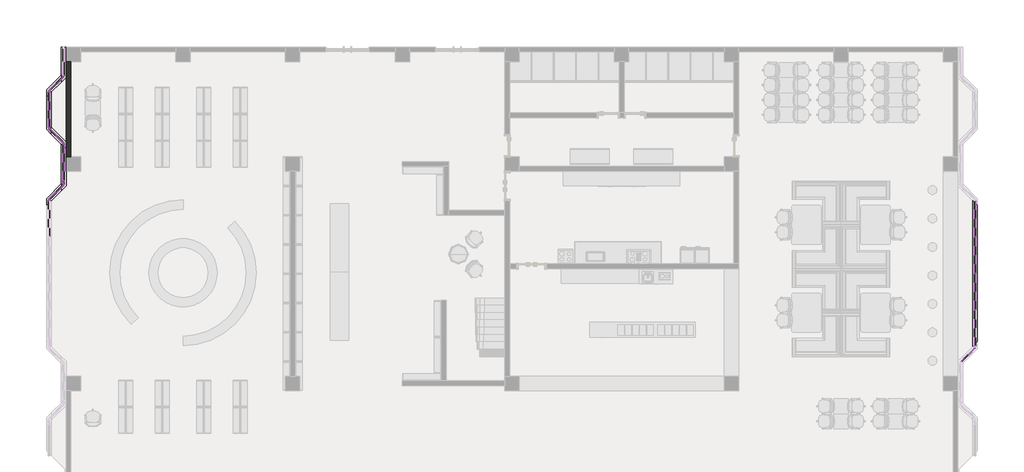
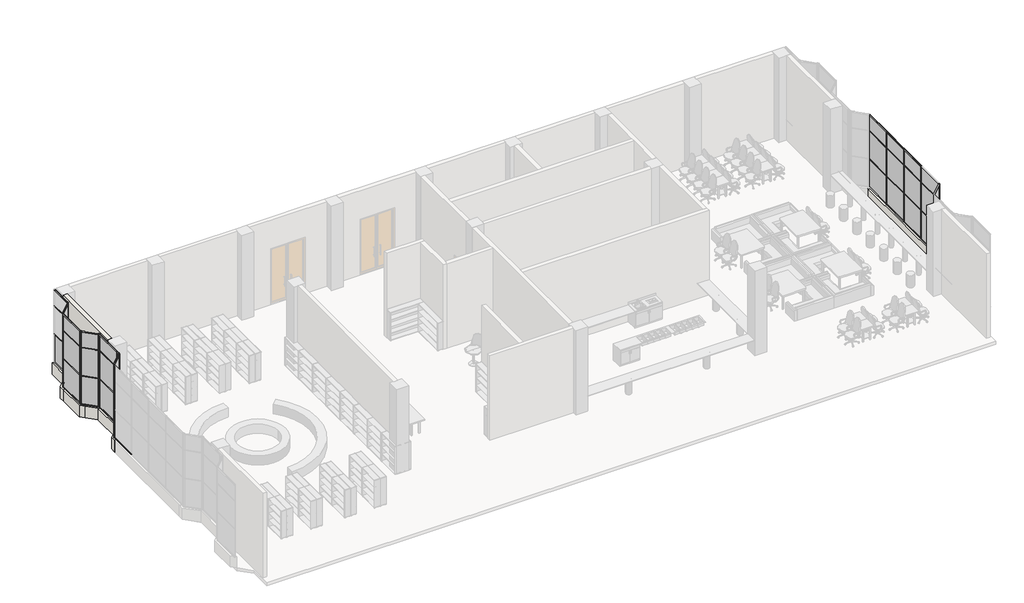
# One storey, part 3 of 6: 95 members, 33 plates, 8 walls.
"""IFC4 building model written with IfcOpenShell, lengths in millimetres."""

from ifc_helpers import new_model, si_unit, origin, origin_with_axes, place, context, project, spatial, polyline, outline, extrude, faceted_brep, transform, mapped, element, save
from components import member_cb4e50c7, member_f3a61f5a, member_936fc316, member_ce826986, member_b2874c62, member_844fc7d1, member_a19ce0de, member_3b68bbe8, member_416e91fe, member_e4634f50, member_39920356, member_1f987d58, member_65f70824, member_5b67f58a, plate_1ca0cd63, plate_54ac635d, plate_9a913afb, plate_37a4c68e, plate_a56820a4, plate_a414dcb1, plate_d4bc9f12

model = new_model("IFC4")

# Units and contexts
model_context = context("Model", 3, world=origin())
ifc_project = project(units=[si_unit("LENGTHUNIT", "METRE", prefix="MILLI")], contexts=[model_context])

# Site, building, storey
site = spatial("IfcSite", under=ifc_project)
building = spatial("IfcBuilding", under=site)
storey = spatial("IfcBuildingStorey", under=building, Name="标高 1", Elevation=0.0)

# Members
placement = place(None, origin())
member_shape = member_cb4e50c7(model_context)
element("IfcMember", 1, ObjectType="圆形竖梃 : 25mm 半径", at=placement, inside=storey, context=model_context, shape_type="MappedRepresentation", body=[
    mapped(member_shape, transform((-8832.6683839, 5524.535821, 4500.0), x_axis=(0.0, 0.0, 1.0), y_axis=(-1.0, 0.0, 0.0), z_axis=(0.0, -1.0, 0.0))),
])
member_2_shape = member_f3a61f5a(model_context)
element("IfcMember", 2, ObjectType="矩形竖梃 : 30mm 正方形", at=placement, inside=storey, context=model_context, shape_type="MappedRepresentation", body=[
    mapped(member_2_shape, transform((-8832.6683839, 5524.535821, 2135.0), x_axis=(0.0, 0.0, 1.0), y_axis=(-1.0, 0.0, 0.0), z_axis=(0.0, -1.0, 0.0))),
])
element("IfcMember", 3, ObjectType="矩形竖梃 : 30mm 正方形", at=placement, inside=storey, context=model_context, shape_type="MappedRepresentation", body=[
    mapped(member_2_shape, transform((-8832.6683839, 5524.535821, 3635.0), x_axis=(0.0, 0.0, 1.0), y_axis=(-1.0, 0.0, 0.0), z_axis=(0.0, -1.0, 0.0))),
])
member_3_shape = member_936fc316(model_context)
element("IfcMember", 4, ObjectType="圆形竖梃 : 25mm 半径", at=placement, inside=storey, context=model_context, shape_type="MappedRepresentation", body=[
    mapped(member_3_shape, transform((-8832.6683839, 5474.535821, 600.0), x_axis=(0.0, -1.0, 0.0), y_axis=(-1.0, 0.0, 0.0), z_axis=(0.0, 0.0, -1.0))),
])
element("IfcMember", 5, ObjectType="圆形竖梃 : 25mm 半径", at=placement, inside=storey, context=model_context, shape_type="MappedRepresentation", body=[
    mapped(member_3_shape, transform((-9432.6683839, 4874.535821, 600.0), x_axis=(-0.7071067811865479, -0.7071067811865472, 0.0), y_axis=(-0.7071067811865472, 0.7071067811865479, 0.0), z_axis=(0.0, 0.0, -1.0))),
])
element("IfcMember", 6, ObjectType="圆形竖梃 : 25mm 半径", at=placement, inside=storey, context=model_context, shape_type="MappedRepresentation", body=[
    mapped(member_3_shape, transform((-8832.6683839, 2733.1144647, 600.0), x_axis=(0.7071067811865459, -0.7071067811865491, 0.0), y_axis=(-0.7071067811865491, -0.7071067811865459, 0.0), z_axis=(0.0, 0.0, -1.0))),
])
element("IfcMember", 7, ObjectType="圆形竖梃 : 25mm 半径", at=placement, inside=storey, context=model_context, shape_type="MappedRepresentation", body=[
    mapped(member_3_shape, transform((-8832.6683839, 1015.9571772, 600.0), x_axis=(0.0, -1.0, 0.0), y_axis=(-1.0, 0.0, 0.0), z_axis=(0.0, 0.0, -1.0))),
])
element("IfcMember", 8, ObjectType="圆形竖梃 : 25mm 半径", at=placement, inside=storey, context=model_context, shape_type="MappedRepresentation", body=[
    mapped(member_3_shape, transform((-9432.6683839, 415.9571772, 600.0), x_axis=(-0.7071067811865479, -0.7071067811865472, 0.0), y_axis=(-0.7071067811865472, 0.7071067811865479, 0.0), z_axis=(0.0, 0.0, -1.0))),
])
member_4_shape = member_ce826986(model_context)
element("IfcMember", 9, ObjectType="圆形竖梃 : 25mm 半径", at=placement, inside=storey, context=model_context, shape_type="MappedRepresentation", body=[
    mapped(member_4_shape, transform((-8832.6683839, 5474.535821, 2135.0), x_axis=(0.0, -1.0, 0.0), y_axis=(-1.0, 0.0, 0.0), z_axis=(0.0, 0.0, -1.0))),
])
element("IfcMember", 10, ObjectType="圆形竖梃 : 25mm 半径", at=placement, inside=storey, context=model_context, shape_type="MappedRepresentation", body=[
    mapped(member_4_shape, transform((-9432.6683839, 4874.535821, 2135.0), x_axis=(-0.7071067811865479, -0.7071067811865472, 0.0), y_axis=(-0.7071067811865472, 0.7071067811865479, 0.0), z_axis=(0.0, 0.0, -1.0))),
])
element("IfcMember", 11, ObjectType="圆形竖梃 : 25mm 半径", at=placement, inside=storey, context=model_context, shape_type="MappedRepresentation", body=[
    mapped(member_4_shape, transform((-8832.6683839, 2733.1144647, 2135.0), x_axis=(0.7071067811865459, -0.7071067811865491, 0.0), y_axis=(-0.7071067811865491, -0.7071067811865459, 0.0), z_axis=(0.0, 0.0, -1.0))),
])
element("IfcMember", 12, ObjectType="圆形竖梃 : 25mm 半径", at=placement, inside=storey, context=model_context, shape_type="MappedRepresentation", body=[
    mapped(member_4_shape, transform((-8832.6683839, 1015.9571772, 2135.0), x_axis=(0.0, -1.0, 0.0), y_axis=(-1.0, 0.0, 0.0), z_axis=(0.0, 0.0, -1.0))),
])
element("IfcMember", 13, ObjectType="圆形竖梃 : 25mm 半径", at=placement, inside=storey, context=model_context, shape_type="MappedRepresentation", body=[
    mapped(member_4_shape, transform((-9432.6683839, 415.9571772, 2135.0), x_axis=(-0.7071067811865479, -0.7071067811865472, 0.0), y_axis=(-0.7071067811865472, 0.7071067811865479, 0.0), z_axis=(0.0, 0.0, -1.0))),
])
member_5_shape = member_b2874c62(model_context)
element("IfcMember", 14, ObjectType="圆形竖梃 : 25mm 半径", at=placement, inside=storey, context=model_context, shape_type="MappedRepresentation", body=[
    mapped(member_5_shape, transform((-8832.6683839, 5474.535821, 3635.0), x_axis=(0.0, -1.0, 0.0), y_axis=(-1.0, 0.0, 0.0), z_axis=(0.0, 0.0, -1.0))),
])
element("IfcMember", 15, ObjectType="圆形竖梃 : 25mm 半径", at=placement, inside=storey, context=model_context, shape_type="MappedRepresentation", body=[
    mapped(member_5_shape, transform((-9432.6683839, 4874.535821, 3635.0), x_axis=(-0.7071067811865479, -0.7071067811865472, 0.0), y_axis=(-0.7071067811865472, 0.7071067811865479, 0.0), z_axis=(0.0, 0.0, -1.0))),
])
element("IfcMember", 16, ObjectType="圆形竖梃 : 25mm 半径", at=placement, inside=storey, context=model_context, shape_type="MappedRepresentation", body=[
    mapped(member_5_shape, transform((-8832.6683839, 2733.1144647, 3635.0), x_axis=(0.7071067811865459, -0.7071067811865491, 0.0), y_axis=(-0.7071067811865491, -0.7071067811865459, 0.0), z_axis=(0.0, 0.0, -1.0))),
])
element("IfcMember", 17, ObjectType="圆形竖梃 : 25mm 半径", at=placement, inside=storey, context=model_context, shape_type="MappedRepresentation", body=[
    mapped(member_5_shape, transform((-8832.6683839, 1015.9571772, 3635.0), x_axis=(0.0, -1.0, 0.0), y_axis=(-1.0, 0.0, 0.0), z_axis=(0.0, 0.0, -1.0))),
])
element("IfcMember", 18, ObjectType="圆形竖梃 : 25mm 半径", at=placement, inside=storey, context=model_context, shape_type="MappedRepresentation", body=[
    mapped(member_5_shape, transform((-9432.6683839, 415.9571772, 3635.0), x_axis=(-0.7071067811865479, -0.7071067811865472, 0.0), y_axis=(-0.7071067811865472, 0.7071067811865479, 0.0), z_axis=(0.0, 0.0, -1.0))),
])
element("IfcMember", 19, ObjectType="圆形竖梃 : 25mm 半径", at=placement, inside=storey, context=model_context, shape_type="MappedRepresentation", body=[
    mapped(member_5_shape, transform((-8832.6683839, 5474.535821, 4500.0), x_axis=(0.7071067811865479, 0.7071067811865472, 0.0), y_axis=(-0.7071067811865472, 0.7071067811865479, 0.0), z_axis=(0.0, 0.0, 1.0))),
])
element("IfcMember", 20, ObjectType="圆形竖梃 : 25mm 半径", at=placement, inside=storey, context=model_context, shape_type="MappedRepresentation", body=[
    mapped(member_5_shape, transform((-9432.6683839, 4874.535821, 4500.0), x_axis=(0.0, 1.0, 0.0), y_axis=(-1.0, 0.0, 0.0), z_axis=(0.0, 0.0, 1.0))),
])
element("IfcMember", 21, ObjectType="圆形竖梃 : 25mm 半径", at=placement, inside=storey, context=model_context, shape_type="MappedRepresentation", body=[
    mapped(member_5_shape, transform((-9432.6683839, 3333.1144647, 4500.0), x_axis=(-0.7071067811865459, 0.7071067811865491, 0.0), y_axis=(-0.7071067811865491, -0.7071067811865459, 0.0), z_axis=(0.0, 0.0, 1.0))),
])
element("IfcMember", 22, ObjectType="圆形竖梃 : 25mm 半径", at=placement, inside=storey, context=model_context, shape_type="MappedRepresentation", body=[
    mapped(member_5_shape, transform((-8832.6683839, 2733.1144647, 4500.0), x_axis=(0.0, 1.0, 0.0), y_axis=(-1.0, 0.0, 0.0), z_axis=(0.0, 0.0, 1.0))),
])
element("IfcMember", 23, ObjectType="圆形竖梃 : 25mm 半径", at=placement, inside=storey, context=model_context, shape_type="MappedRepresentation", body=[
    mapped(member_5_shape, transform((-8832.6683839, 1015.9571772, 4500.0), x_axis=(0.7071067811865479, 0.7071067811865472, 0.0), y_axis=(-0.7071067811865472, 0.7071067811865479, 0.0), z_axis=(0.0, 0.0, 1.0))),
])
element("IfcMember", 24, ObjectType="圆形竖梃 : 25mm 半径", at=placement, inside=storey, context=model_context, shape_type="MappedRepresentation", body=[
    mapped(member_5_shape, transform((-9432.6683839, 415.9571772, 4500.0), x_axis=(0.0, 1.0, 0.0), y_axis=(-1.0, 0.0, 0.0), z_axis=(0.0, 0.0, 1.0))),
])
element("IfcMember", 25, ObjectType="圆形竖梃 : 25mm 半径", at=placement, inside=storey, context=model_context, shape_type="MappedRepresentation", body=[
    mapped(member_3_shape, transform((-8832.6683839, 5474.535821, 2135.0), x_axis=(0.7071067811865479, 0.7071067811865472, 0.0), y_axis=(-0.7071067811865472, 0.7071067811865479, 0.0), z_axis=(0.0, 0.0, 1.0))),
])
element("IfcMember", 26, ObjectType="圆形竖梃 : 25mm 半径", at=placement, inside=storey, context=model_context, shape_type="MappedRepresentation", body=[
    mapped(member_3_shape, transform((-9432.6683839, 4874.535821, 2135.0), x_axis=(0.0, 1.0, 0.0), y_axis=(-1.0, 0.0, 0.0), z_axis=(0.0, 0.0, 1.0))),
])
element("IfcMember", 27, ObjectType="圆形竖梃 : 25mm 半径", at=placement, inside=storey, context=model_context, shape_type="MappedRepresentation", body=[
    mapped(member_3_shape, transform((-9432.6683839, 3333.1144647, 2135.0), x_axis=(-0.7071067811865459, 0.7071067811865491, 0.0), y_axis=(-0.7071067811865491, -0.7071067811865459, 0.0), z_axis=(0.0, 0.0, 1.0))),
])
element("IfcMember", 28, ObjectType="圆形竖梃 : 25mm 半径", at=placement, inside=storey, context=model_context, shape_type="MappedRepresentation", body=[
    mapped(member_3_shape, transform((-8832.6683839, 2733.1144647, 2135.0), x_axis=(0.0, 1.0, 0.0), y_axis=(-1.0, 0.0, 0.0), z_axis=(0.0, 0.0, 1.0))),
])
element("IfcMember", 29, ObjectType="圆形竖梃 : 25mm 半径", at=placement, inside=storey, context=model_context, shape_type="MappedRepresentation", body=[
    mapped(member_3_shape, transform((-8832.6683839, 1015.9571772, 2135.0), x_axis=(0.7071067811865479, 0.7071067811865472, 0.0), y_axis=(-0.7071067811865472, 0.7071067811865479, 0.0), z_axis=(0.0, 0.0, 1.0))),
])
element("IfcMember", 30, ObjectType="圆形竖梃 : 25mm 半径", at=placement, inside=storey, context=model_context, shape_type="MappedRepresentation", body=[
    mapped(member_3_shape, transform((-9432.6683839, 415.9571772, 2135.0), x_axis=(0.0, 1.0, 0.0), y_axis=(-1.0, 0.0, 0.0), z_axis=(0.0, 0.0, 1.0))),
])
element("IfcMember", 31, ObjectType="圆形竖梃 : 25mm 半径", at=placement, inside=storey, context=model_context, shape_type="MappedRepresentation", body=[
    mapped(member_4_shape, transform((-8832.6683839, 5474.535821, 3635.0), x_axis=(0.7071067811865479, 0.7071067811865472, 0.0), y_axis=(-0.7071067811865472, 0.7071067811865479, 0.0), z_axis=(0.0, 0.0, 1.0))),
])
element("IfcMember", 32, ObjectType="圆形竖梃 : 25mm 半径", at=placement, inside=storey, context=model_context, shape_type="MappedRepresentation", body=[
    mapped(member_4_shape, transform((-9432.6683839, 4874.535821, 3635.0), x_axis=(0.0, 1.0, 0.0), y_axis=(-1.0, 0.0, 0.0), z_axis=(0.0, 0.0, 1.0))),
])
element("IfcMember", 33, ObjectType="圆形竖梃 : 25mm 半径", at=placement, inside=storey, context=model_context, shape_type="MappedRepresentation", body=[
    mapped(member_4_shape, transform((-9432.6683839, 3333.1144647, 3635.0), x_axis=(-0.7071067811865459, 0.7071067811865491, 0.0), y_axis=(-0.7071067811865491, -0.7071067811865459, 0.0), z_axis=(0.0, 0.0, 1.0))),
])
element("IfcMember", 34, ObjectType="圆形竖梃 : 25mm 半径", at=placement, inside=storey, context=model_context, shape_type="MappedRepresentation", body=[
    mapped(member_4_shape, transform((-8832.6683839, 2733.1144647, 3635.0), x_axis=(0.0, 1.0, 0.0), y_axis=(-1.0, 0.0, 0.0), z_axis=(0.0, 0.0, 1.0))),
])
element("IfcMember", 35, ObjectType="圆形竖梃 : 25mm 半径", at=placement, inside=storey, context=model_context, shape_type="MappedRepresentation", body=[
    mapped(member_4_shape, transform((-8832.6683839, 1015.9571772, 3635.0), x_axis=(0.7071067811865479, 0.7071067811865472, 0.0), y_axis=(-0.7071067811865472, 0.7071067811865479, 0.0), z_axis=(0.0, 0.0, 1.0))),
])
element("IfcMember", 36, ObjectType="圆形竖梃 : 25mm 半径", at=placement, inside=storey, context=model_context, shape_type="MappedRepresentation", body=[
    mapped(member_4_shape, transform((-9432.6683839, 415.9571772, 3635.0), x_axis=(0.0, 1.0, 0.0), y_axis=(-1.0, 0.0, 0.0), z_axis=(0.0, 0.0, 1.0))),
])
member_6_shape = member_844fc7d1(model_context)
element("IfcMember", 37, ObjectType="圆形竖梃 : 25mm 半径", at=placement, inside=storey, context=model_context, shape_type="MappedRepresentation", body=[
    mapped(member_6_shape, transform((-9397.3130449, 4909.89116, 4500.0), x_axis=(0.0, 0.0, 1.0), y_axis=(-0.7071067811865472, 0.7071067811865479, 0.0), z_axis=(-0.7071067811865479, -0.7071067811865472, 0.0))),
])
element("IfcMember", 38, ObjectType="圆形竖梃 : 25mm 半径", at=placement, inside=storey, context=model_context, shape_type="MappedRepresentation", body=[
    mapped(member_6_shape, transform((-8868.023723, 2768.4698038, 4500.0), x_axis=(0.0, 0.0, 1.0), y_axis=(-0.7071067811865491, -0.7071067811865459, 0.0), z_axis=(0.7071067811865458, -0.707106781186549, 0.0))),
])
element("IfcMember", 39, ObjectType="圆形竖梃 : 25mm 半径", at=placement, inside=storey, context=model_context, shape_type="MappedRepresentation", body=[
    mapped(member_6_shape, transform((-9397.3130449, 451.3125163, 4500.0), x_axis=(0.0, 0.0, 1.0), y_axis=(-0.7071067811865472, 0.7071067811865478, 0.0), z_axis=(-0.7071067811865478, -0.7071067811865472, 0.0))),
])
element("IfcMember", 40, ObjectType="圆形竖梃 : 25mm 半径", at=placement, inside=storey, context=model_context, shape_type="MappedRepresentation", body=[
    mapped(member_6_shape, transform((-8868.023723, 5439.1804819, 600.0), x_axis=(0.0, 0.0, -1.0), y_axis=(-0.7071067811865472, 0.7071067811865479, 0.0), z_axis=(0.7071067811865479, 0.7071067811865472, 0.0))),
])
element("IfcMember", 41, ObjectType="圆形竖梃 : 25mm 半径", at=placement, inside=storey, context=model_context, shape_type="MappedRepresentation", body=[
    mapped(member_6_shape, transform((-9397.3130449, 3297.7591257, 600.0), x_axis=(0.0, 0.0, -1.0), y_axis=(-0.7071067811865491, -0.7071067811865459, 0.0), z_axis=(-0.7071067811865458, 0.707106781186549, 0.0))),
])
element("IfcMember", 42, ObjectType="圆形竖梃 : 25mm 半径", at=placement, inside=storey, context=model_context, shape_type="MappedRepresentation", body=[
    mapped(member_6_shape, transform((-8868.023723, 980.6018382, 600.0), x_axis=(0.0, 0.0, -1.0), y_axis=(-0.7071067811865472, 0.7071067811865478, 0.0), z_axis=(0.7071067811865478, 0.7071067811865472, 0.0))),
])
member_7_shape = member_a19ce0de(model_context)
element("IfcMember", 43, ObjectType="矩形竖梃 : 30mm 正方形", at=placement, inside=storey, context=model_context, shape_type="MappedRepresentation", body=[
    mapped(member_7_shape, transform((-9397.3130449, 4909.89116, 2135.0), x_axis=(0.0, 0.0, 1.0), y_axis=(-0.7071067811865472, 0.7071067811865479, 0.0), z_axis=(-0.7071067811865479, -0.7071067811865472, 0.0))),
])
element("IfcMember", 44, ObjectType="矩形竖梃 : 30mm 正方形", at=placement, inside=storey, context=model_context, shape_type="MappedRepresentation", body=[
    mapped(member_7_shape, transform((-9397.3130449, 4909.89116, 3635.0), x_axis=(0.0, 0.0, 1.0), y_axis=(-0.7071067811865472, 0.7071067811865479, 0.0), z_axis=(-0.7071067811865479, -0.7071067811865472, 0.0))),
])
element("IfcMember", 45, ObjectType="矩形竖梃 : 30mm 正方形", at=placement, inside=storey, context=model_context, shape_type="MappedRepresentation", body=[
    mapped(member_7_shape, transform((-8868.023723, 2768.4698038, 2135.0), x_axis=(0.0, 0.0, 1.0), y_axis=(-0.7071067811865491, -0.7071067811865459, 0.0), z_axis=(0.7071067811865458, -0.707106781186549, 0.0))),
])
element("IfcMember", 46, ObjectType="矩形竖梃 : 30mm 正方形", at=placement, inside=storey, context=model_context, shape_type="MappedRepresentation", body=[
    mapped(member_7_shape, transform((-8868.023723, 2768.4698038, 3635.0), x_axis=(0.0, 0.0, 1.0), y_axis=(-0.7071067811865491, -0.7071067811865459, 0.0), z_axis=(0.7071067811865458, -0.707106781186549, 0.0))),
])
element("IfcMember", 47, ObjectType="矩形竖梃 : 30mm 正方形", at=placement, inside=storey, context=model_context, shape_type="MappedRepresentation", body=[
    mapped(member_7_shape, transform((-9397.3130449, 451.3125163, 2135.0), x_axis=(0.0, 0.0, 1.0), y_axis=(-0.7071067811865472, 0.7071067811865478, 0.0), z_axis=(-0.7071067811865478, -0.7071067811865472, 0.0))),
])
element("IfcMember", 48, ObjectType="矩形竖梃 : 30mm 正方形", at=placement, inside=storey, context=model_context, shape_type="MappedRepresentation", body=[
    mapped(member_7_shape, transform((-9397.3130449, 451.3125163, 3635.0), x_axis=(0.0, 0.0, 1.0), y_axis=(-0.7071067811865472, 0.7071067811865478, 0.0), z_axis=(-0.7071067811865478, -0.7071067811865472, 0.0))),
])
member_8_shape = member_3b68bbe8(model_context)
element("IfcMember", 49, ObjectType="圆形竖梃 : 25mm 半径", at=placement, inside=storey, context=model_context, shape_type="MappedRepresentation", body=[
    mapped(member_8_shape, transform((-9432.6683839, 3354.5358207, 4500.0), x_axis=(0.0, 0.0, 1.0), y_axis=(-1.0, 0.0, 0.0), z_axis=(0.0, -1.0, 0.0))),
])
element("IfcMember", 50, ObjectType="圆形竖梃 : 25mm 半径", at=placement, inside=storey, context=model_context, shape_type="MappedRepresentation", body=[
    mapped(member_8_shape, transform((-8832.6683839, 1213.1144644, 4500.0), x_axis=(0.0, 0.0, 1.0), y_axis=(-1.0, 0.0, 0.0), z_axis=(0.0, -1.0, 0.0))),
])
element("IfcMember", 51, ObjectType="圆形竖梃 : 25mm 半径", at=placement, inside=storey, context=model_context, shape_type="MappedRepresentation", body=[
    mapped(member_8_shape, transform((-9432.6683839, 4824.535821, 600.0), x_axis=(0.0, 0.0, -1.0), y_axis=(-1.0, 0.0, 0.0), z_axis=(0.0, 1.0, 0.0))),
])
element("IfcMember", 52, ObjectType="圆形竖梃 : 25mm 半径", at=placement, inside=storey, context=model_context, shape_type="MappedRepresentation", body=[
    mapped(member_8_shape, transform((-8832.6683839, 2683.1144647, 600.0), x_axis=(0.0, 0.0, -1.0), y_axis=(-1.0, 0.0, 0.0), z_axis=(0.0, 1.0, 0.0))),
])
element("IfcMember", 53, ObjectType="圆形竖梃 : 25mm 半径", at=placement, inside=storey, context=model_context, shape_type="MappedRepresentation", body=[
    mapped(member_8_shape, transform((-9432.6683839, 365.9571772, 600.0), x_axis=(0.0, 0.0, -1.0), y_axis=(-1.0, 0.0, 0.0), z_axis=(0.0, 1.0, 0.0))),
])
member_9_shape = member_416e91fe(model_context)
element("IfcMember", 54, ObjectType="矩形竖梃 : 30mm 正方形", at=placement, inside=storey, context=model_context, shape_type="MappedRepresentation", body=[
    mapped(member_9_shape, transform((-9432.6683839, 3354.5358207, 2135.0), x_axis=(0.0, 0.0, 1.0), y_axis=(-1.0, 0.0, 0.0), z_axis=(0.0, -1.0, 0.0))),
])
element("IfcMember", 55, ObjectType="矩形竖梃 : 30mm 正方形", at=placement, inside=storey, context=model_context, shape_type="MappedRepresentation", body=[
    mapped(member_9_shape, transform((-9432.6683839, 3354.5358207, 3635.0), x_axis=(0.0, 0.0, 1.0), y_axis=(-1.0, 0.0, 0.0), z_axis=(0.0, -1.0, 0.0))),
])
element("IfcMember", 56, ObjectType="矩形竖梃 : 30mm 正方形", at=placement, inside=storey, context=model_context, shape_type="MappedRepresentation", body=[
    mapped(member_9_shape, transform((-8832.6683839, 1213.1144644, 2135.0), x_axis=(0.0, 0.0, 1.0), y_axis=(-1.0, 0.0, 0.0), z_axis=(0.0, -1.0, 0.0))),
])
element("IfcMember", 57, ObjectType="矩形竖梃 : 30mm 正方形", at=placement, inside=storey, context=model_context, shape_type="MappedRepresentation", body=[
    mapped(member_9_shape, transform((-8832.6683839, 1213.1144644, 3635.0), x_axis=(0.0, 0.0, 1.0), y_axis=(-1.0, 0.0, 0.0), z_axis=(0.0, -1.0, 0.0))),
])
member_10_shape = member_e4634f50(model_context)
element("IfcMember", 58, ObjectType="矩形竖梃 : 30mm 正方形", at=placement, inside=storey, context=model_context, shape_type="MappedRepresentation", body=[
    mapped(member_10_shape, transform((-9432.6683839, 3339.5358207, 600.0), x_axis=(0.0, -1.0, 0.0), y_axis=(-1.0, 0.0, 0.0), z_axis=(0.0, 0.0, -1.0))),
])
element("IfcMember", 59, ObjectType="矩形竖梃 : 30mm 正方形", at=placement, inside=storey, context=model_context, shape_type="MappedRepresentation", body=[
    mapped(member_10_shape, transform((-8832.6683839, 1198.1144644, 600.0), x_axis=(0.0, -1.0, 0.0), y_axis=(-1.0, 0.0, 0.0), z_axis=(0.0, 0.0, -1.0))),
])
member_11_shape = member_39920356(model_context)
element("IfcMember", 60, ObjectType="矩形竖梃 : 30mm 正方形", at=placement, inside=storey, context=model_context, shape_type="MappedRepresentation", body=[
    mapped(member_11_shape, transform((-9432.6683839, 3339.5358207, 2135.0), x_axis=(0.0, -1.0, 0.0), y_axis=(-1.0, 0.0, 0.0), z_axis=(0.0, 0.0, -1.0))),
])
element("IfcMember", 61, ObjectType="矩形竖梃 : 30mm 正方形", at=placement, inside=storey, context=model_context, shape_type="MappedRepresentation", body=[
    mapped(member_11_shape, transform((-8832.6683839, 1198.1144644, 2135.0), x_axis=(0.0, -1.0, 0.0), y_axis=(-1.0, 0.0, 0.0), z_axis=(0.0, 0.0, -1.0))),
])
member_12_shape = member_1f987d58(model_context)
element("IfcMember", 62, ObjectType="矩形竖梃 : 30mm 正方形", at=placement, inside=storey, context=model_context, shape_type="MappedRepresentation", body=[
    mapped(member_12_shape, transform((-9432.6683839, 3339.5358207, 3635.0), x_axis=(0.0, -1.0, 0.0), y_axis=(-1.0, 0.0, 0.0), z_axis=(0.0, 0.0, -1.0))),
])
element("IfcMember", 63, ObjectType="矩形竖梃 : 30mm 正方形", at=placement, inside=storey, context=model_context, shape_type="MappedRepresentation", body=[
    mapped(member_12_shape, transform((-8832.6683839, 1198.1144644, 3635.0), x_axis=(0.0, -1.0, 0.0), y_axis=(-1.0, 0.0, 0.0), z_axis=(0.0, 0.0, -1.0))),
])
element("IfcMember", 64, ObjectType="圆形竖梃 : 25mm 半径", at=placement, inside=storey, context=model_context, shape_type="MappedRepresentation", body=[
    mapped(member_3_shape, transform((-9432.6683839, 3333.1144647, 600.0), x_axis=(0.0, -1.0, 0.0), y_axis=(-1.0, 0.0, 0.0), z_axis=(0.0, 0.0, -1.0))),
])
element("IfcMember", 65, ObjectType="圆形竖梃 : 25mm 半径", at=placement, inside=storey, context=model_context, shape_type="MappedRepresentation", body=[
    mapped(member_4_shape, transform((-9432.6683839, 3333.1144647, 2135.0), x_axis=(0.0, -1.0, 0.0), y_axis=(-1.0, 0.0, 0.0), z_axis=(0.0, 0.0, -1.0))),
])
element("IfcMember", 66, ObjectType="圆形竖梃 : 25mm 半径", at=placement, inside=storey, context=model_context, shape_type="MappedRepresentation", body=[
    mapped(member_5_shape, transform((-9432.6683839, 3333.1144647, 3635.0), x_axis=(0.0, -1.0, 0.0), y_axis=(-1.0, 0.0, 0.0), z_axis=(0.0, 0.0, -1.0))),
])
member_13_shape = member_65f70824(model_context)
element("IfcMember", 67, ObjectType="圆形竖梃 : 25mm 半径", at=placement, inside=storey, context=model_context, shape_type="MappedRepresentation", body=[
    mapped(member_13_shape, transform((-8832.6683839, 1065.9571772, 4500.0), x_axis=(0.0, 0.0, 1.0), y_axis=(-1.0, 0.0, 0.0), z_axis=(0.0, -1.0, 0.0))),
])
element("IfcMember", 68, ObjectType="圆形竖梃 : 25mm 半径", at=placement, inside=storey, context=model_context, shape_type="MappedRepresentation", body=[
    mapped(member_13_shape, transform((-8832.6683839, 1183.1144644, 600.0), x_axis=(0.0, 0.0, -1.0), y_axis=(-1.0, 0.0, 0.0), z_axis=(0.0, 1.0, 0.0))),
])
member_14_shape = member_5b67f58a(model_context)
element("IfcMember", 69, ObjectType="矩形竖梃 : 30mm 正方形", at=placement, inside=storey, context=model_context, shape_type="MappedRepresentation", body=[
    mapped(member_14_shape, transform((-8832.6683839, 1065.9571772, 2135.0), x_axis=(0.0, 0.0, 1.0), y_axis=(-1.0, 0.0, 0.0), z_axis=(0.0, -1.0, 0.0))),
])
element("IfcMember", 70, ObjectType="矩形竖梃 : 30mm 正方形", at=placement, inside=storey, context=model_context, shape_type="MappedRepresentation", body=[
    mapped(member_14_shape, transform((-8832.6683839, 1065.9571772, 3635.0), x_axis=(0.0, 0.0, 1.0), y_axis=(-1.0, 0.0, 0.0), z_axis=(0.0, -1.0, 0.0))),
])
element("IfcMember", 71, ObjectType="圆形竖梃 : 25mm 半径", at=placement, inside=storey, context=model_context, shape_type="MappedRepresentation", body=[
    mapped(member_5_shape, transform((28567.3316161, -5666.8855353, 4500.0), x_axis=(0.7071067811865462, 0.7071067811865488, 0.0), y_axis=(-0.7071067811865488, 0.7071067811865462, 0.0), z_axis=(0.0, 0.0, 1.0))),
])
element("IfcMember", 72, ObjectType="圆形竖梃 : 25mm 半径", at=placement, inside=storey, context=model_context, shape_type="MappedRepresentation", body=[
    mapped(member_3_shape, transform((28567.3316161, -5666.8855353, 2135.0), x_axis=(0.7071067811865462, 0.7071067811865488, 0.0), y_axis=(-0.7071067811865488, 0.7071067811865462, 0.0), z_axis=(0.0, 0.0, 1.0))),
])
element("IfcMember", 73, ObjectType="圆形竖梃 : 25mm 半径", at=placement, inside=storey, context=model_context, shape_type="MappedRepresentation", body=[
    mapped(member_4_shape, transform((28567.3316161, -5666.8855353, 3635.0), x_axis=(0.7071067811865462, 0.7071067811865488, 0.0), y_axis=(-0.7071067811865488, 0.7071067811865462, 0.0), z_axis=(0.0, 0.0, 1.0))),
])
element("IfcMember", 74, ObjectType="圆形竖梃 : 25mm 半径", at=placement, inside=storey, context=model_context, shape_type="MappedRepresentation", body=[
    mapped(member_6_shape, transform((28531.976277, -5702.2408743, 600.0), x_axis=(0.0, 0.0, -1.0), y_axis=(-0.7071067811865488, 0.7071067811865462, 0.0), z_axis=(0.7071067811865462, 0.7071067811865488, 0.0))),
])
element("IfcMember", 75, ObjectType="圆形竖梃 : 25mm 半径", at=placement, inside=storey, context=model_context, shape_type="MappedRepresentation", body=[
    mapped(member_8_shape, transform((28567.3316161, -1104.0428231, 4500.0), x_axis=(0.0, 0.0, 1.0), y_axis=(-1.0, 0.0, 0.0), z_axis=(0.0, -1.0, 0.0))),
])
element("IfcMember", 76, ObjectType="圆形竖梃 : 25mm 半径", at=placement, inside=storey, context=model_context, shape_type="MappedRepresentation", body=[
    mapped(member_8_shape, transform((28567.3316161, -2604.0428231, 4500.0), x_axis=(0.0, 0.0, 1.0), y_axis=(-1.0, 0.0, 0.0), z_axis=(0.0, -1.0, 0.0))),
])
element("IfcMember", 77, ObjectType="圆形竖梃 : 25mm 半径", at=placement, inside=storey, context=model_context, shape_type="MappedRepresentation", body=[
    mapped(member_8_shape, transform((28567.3316161, -4104.0428231, 4500.0), x_axis=(0.0, 0.0, 1.0), y_axis=(-1.0, 0.0, 0.0), z_axis=(0.0, -1.0, 0.0))),
])
element("IfcMember", 78, ObjectType="圆形竖梃 : 25mm 半径", at=placement, inside=storey, context=model_context, shape_type="MappedRepresentation", body=[
    mapped(member_8_shape, transform((28567.3316161, -1134.0428231, 600.0), x_axis=(0.0, 0.0, -1.0), y_axis=(-1.0, 0.0, 0.0), z_axis=(0.0, 1.0, 0.0))),
])
element("IfcMember", 79, ObjectType="圆形竖梃 : 25mm 半径", at=placement, inside=storey, context=model_context, shape_type="MappedRepresentation", body=[
    mapped(member_8_shape, transform((28567.3316161, -2634.0428231, 600.0), x_axis=(0.0, 0.0, -1.0), y_axis=(-1.0, 0.0, 0.0), z_axis=(0.0, 1.0, 0.0))),
])
element("IfcMember", 80, ObjectType="圆形竖梃 : 25mm 半径", at=placement, inside=storey, context=model_context, shape_type="MappedRepresentation", body=[
    mapped(member_8_shape, transform((28567.3316161, -4134.0428231, 600.0), x_axis=(0.0, 0.0, -1.0), y_axis=(-1.0, 0.0, 0.0), z_axis=(0.0, 1.0, 0.0))),
])
element("IfcMember", 81, ObjectType="矩形竖梃 : 30mm 正方形", at=placement, inside=storey, context=model_context, shape_type="MappedRepresentation", body=[
    mapped(member_9_shape, transform((28567.3316161, -1104.0428231, 2135.0), x_axis=(0.0, 0.0, 1.0), y_axis=(-1.0, 0.0, 0.0), z_axis=(0.0, -1.0, 0.0))),
])
element("IfcMember", 82, ObjectType="矩形竖梃 : 30mm 正方形", at=placement, inside=storey, context=model_context, shape_type="MappedRepresentation", body=[
    mapped(member_9_shape, transform((28567.3316161, -2604.0428231, 2135.0), x_axis=(0.0, 0.0, 1.0), y_axis=(-1.0, 0.0, 0.0), z_axis=(0.0, -1.0, 0.0))),
])
element("IfcMember", 83, ObjectType="矩形竖梃 : 30mm 正方形", at=placement, inside=storey, context=model_context, shape_type="MappedRepresentation", body=[
    mapped(member_9_shape, transform((28567.3316161, -4104.0428231, 2135.0), x_axis=(0.0, 0.0, 1.0), y_axis=(-1.0, 0.0, 0.0), z_axis=(0.0, -1.0, 0.0))),
])
element("IfcMember", 84, ObjectType="矩形竖梃 : 30mm 正方形", at=placement, inside=storey, context=model_context, shape_type="MappedRepresentation", body=[
    mapped(member_9_shape, transform((28567.3316161, -1104.0428231, 3635.0), x_axis=(0.0, 0.0, 1.0), y_axis=(-1.0, 0.0, 0.0), z_axis=(0.0, -1.0, 0.0))),
])
element("IfcMember", 85, ObjectType="矩形竖梃 : 30mm 正方形", at=placement, inside=storey, context=model_context, shape_type="MappedRepresentation", body=[
    mapped(member_9_shape, transform((28567.3316161, -2604.0428231, 3635.0), x_axis=(0.0, 0.0, 1.0), y_axis=(-1.0, 0.0, 0.0), z_axis=(0.0, -1.0, 0.0))),
])
element("IfcMember", 86, ObjectType="矩形竖梃 : 30mm 正方形", at=placement, inside=storey, context=model_context, shape_type="MappedRepresentation", body=[
    mapped(member_9_shape, transform((28567.3316161, -4104.0428231, 3635.0), x_axis=(0.0, 0.0, 1.0), y_axis=(-1.0, 0.0, 0.0), z_axis=(0.0, -1.0, 0.0))),
])
element("IfcMember", 87, ObjectType="矩形竖梃 : 30mm 正方形", at=placement, inside=storey, context=model_context, shape_type="MappedRepresentation", body=[
    mapped(member_10_shape, transform((28567.3316161, -1119.0428231, 600.0), x_axis=(0.0, -1.0, 0.0), y_axis=(-1.0, 0.0, 0.0), z_axis=(0.0, 0.0, -1.0))),
])
element("IfcMember", 88, ObjectType="矩形竖梃 : 30mm 正方形", at=placement, inside=storey, context=model_context, shape_type="MappedRepresentation", body=[
    mapped(member_10_shape, transform((28567.3316161, -2619.0428231, 600.0), x_axis=(0.0, -1.0, 0.0), y_axis=(-1.0, 0.0, 0.0), z_axis=(0.0, 0.0, -1.0))),
])
element("IfcMember", 89, ObjectType="矩形竖梃 : 30mm 正方形", at=placement, inside=storey, context=model_context, shape_type="MappedRepresentation", body=[
    mapped(member_10_shape, transform((28567.3316161, -4119.0428231, 600.0), x_axis=(0.0, -1.0, 0.0), y_axis=(-1.0, 0.0, 0.0), z_axis=(0.0, 0.0, -1.0))),
])
element("IfcMember", 90, ObjectType="矩形竖梃 : 30mm 正方形", at=placement, inside=storey, context=model_context, shape_type="MappedRepresentation", body=[
    mapped(member_11_shape, transform((28567.3316161, -1119.0428231, 2135.0), x_axis=(0.0, -1.0, 0.0), y_axis=(-1.0, 0.0, 0.0), z_axis=(0.0, 0.0, -1.0))),
])
element("IfcMember", 91, ObjectType="矩形竖梃 : 30mm 正方形", at=placement, inside=storey, context=model_context, shape_type="MappedRepresentation", body=[
    mapped(member_11_shape, transform((28567.3316161, -2619.0428231, 2135.0), x_axis=(0.0, -1.0, 0.0), y_axis=(-1.0, 0.0, 0.0), z_axis=(0.0, 0.0, -1.0))),
])
element("IfcMember", 92, ObjectType="矩形竖梃 : 30mm 正方形", at=placement, inside=storey, context=model_context, shape_type="MappedRepresentation", body=[
    mapped(member_11_shape, transform((28567.3316161, -4119.0428231, 2135.0), x_axis=(0.0, -1.0, 0.0), y_axis=(-1.0, 0.0, 0.0), z_axis=(0.0, 0.0, -1.0))),
])
element("IfcMember", 93, ObjectType="矩形竖梃 : 30mm 正方形", at=placement, inside=storey, context=model_context, shape_type="MappedRepresentation", body=[
    mapped(member_12_shape, transform((28567.3316161, -1119.0428231, 3635.0), x_axis=(0.0, -1.0, 0.0), y_axis=(-1.0, 0.0, 0.0), z_axis=(0.0, 0.0, -1.0))),
])
element("IfcMember", 94, ObjectType="矩形竖梃 : 30mm 正方形", at=placement, inside=storey, context=model_context, shape_type="MappedRepresentation", body=[
    mapped(member_12_shape, transform((28567.3316161, -2619.0428231, 3635.0), x_axis=(0.0, -1.0, 0.0), y_axis=(-1.0, 0.0, 0.0), z_axis=(0.0, 0.0, -1.0))),
])
element("IfcMember", 95, ObjectType="矩形竖梃 : 30mm 正方形", at=placement, inside=storey, context=model_context, shape_type="MappedRepresentation", body=[
    mapped(member_12_shape, transform((28567.3316161, -4119.0428231, 3635.0), x_axis=(0.0, -1.0, 0.0), y_axis=(-1.0, 0.0, 0.0), z_axis=(0.0, 0.0, -1.0))),
])

# Plates
plate_shape = plate_1ca0cd63(model_context)
element("IfcPlate", 96, ObjectType="系统嵌板 : 玻璃", at=placement, inside=storey, context=model_context, shape_type="MappedRepresentation", body=[
    mapped(plate_shape, transform((-8832.6683839, 6074.535821, 650.0), x_axis=(0.0, -1.0, 0.0), y_axis=(1.0, 0.0, 0.0), z_axis=(0.0, 0.0, 1.0))),
])
plate_2_shape = plate_54ac635d(model_context)
element("IfcPlate", 97, ObjectType="系统嵌板 : 玻璃", at=placement, inside=storey, context=model_context, shape_type="MappedRepresentation", body=[
    mapped(plate_2_shape, transform((-9132.6683839, 5174.535821, 650.0), x_axis=(-0.7071067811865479, -0.7071067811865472, 0.0), y_axis=(0.7071067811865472, -0.7071067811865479, 0.0), z_axis=(0.0, 0.0, 1.0))),
])
element("IfcPlate", 98, ObjectType="系统嵌板 : 玻璃", at=placement, inside=storey, context=model_context, shape_type="MappedRepresentation", body=[
    mapped(plate_2_shape, transform((-9132.6683839, 5174.535821, 2150.0), x_axis=(-0.7071067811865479, -0.7071067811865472, 0.0), y_axis=(0.7071067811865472, -0.7071067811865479, 0.0), z_axis=(0.0, 0.0, 1.0))),
])
element("IfcPlate", 99, ObjectType="系统嵌板 : 玻璃", at=placement, inside=storey, context=model_context, shape_type="MappedRepresentation", body=[
    mapped(plate_2_shape, transform((-9132.6683839, 3033.1144647, 650.0), x_axis=(0.7071067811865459, -0.7071067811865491, 0.0), y_axis=(0.7071067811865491, 0.7071067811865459, 0.0), z_axis=(0.0, 0.0, 1.0))),
])
element("IfcPlate", 100, ObjectType="系统嵌板 : 玻璃", at=placement, inside=storey, context=model_context, shape_type="MappedRepresentation", body=[
    mapped(plate_2_shape, transform((-9132.6683839, 3033.1144647, 2150.0), x_axis=(0.7071067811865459, -0.7071067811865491, 0.0), y_axis=(0.7071067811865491, 0.7071067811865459, 0.0), z_axis=(0.0, 0.0, 1.0))),
])
element("IfcPlate", 101, ObjectType="系统嵌板 : 玻璃", at=placement, inside=storey, context=model_context, shape_type="MappedRepresentation", body=[
    mapped(plate_2_shape, transform((-9132.6683839, 715.9571772, 650.0), x_axis=(-0.7071067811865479, -0.7071067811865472, 0.0), y_axis=(0.7071067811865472, -0.7071067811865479, 0.0), z_axis=(0.0, 0.0, 1.0))),
])
element("IfcPlate", 102, ObjectType="系统嵌板 : 玻璃", at=placement, inside=storey, context=model_context, shape_type="MappedRepresentation", body=[
    mapped(plate_2_shape, transform((-9132.6683839, 715.9571772, 2150.0), x_axis=(-0.7071067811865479, -0.7071067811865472, 0.0), y_axis=(0.7071067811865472, -0.7071067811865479, 0.0), z_axis=(0.0, 0.0, 1.0))),
])
plate_3_shape = plate_9a913afb(model_context)
element("IfcPlate", 103, ObjectType="系统嵌板 : 玻璃", at=placement, inside=storey, context=model_context, shape_type="MappedRepresentation", body=[
    mapped(plate_3_shape, transform((-9132.6683839, 5174.535821, 3650.0), x_axis=(-0.7071067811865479, -0.7071067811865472, 0.0), y_axis=(0.7071067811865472, -0.7071067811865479, 0.0), z_axis=(0.0, 0.0, 1.0))),
])
element("IfcPlate", 104, ObjectType="系统嵌板 : 玻璃", at=placement, inside=storey, context=model_context, shape_type="MappedRepresentation", body=[
    mapped(plate_3_shape, transform((-9132.6683839, 3033.1144647, 3650.0), x_axis=(0.7071067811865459, -0.7071067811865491, 0.0), y_axis=(0.7071067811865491, 0.7071067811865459, 0.0), z_axis=(0.0, 0.0, 1.0))),
])
element("IfcPlate", 105, ObjectType="系统嵌板 : 玻璃", at=placement, inside=storey, context=model_context, shape_type="MappedRepresentation", body=[
    mapped(plate_3_shape, transform((-9132.6683839, 715.9571772, 3650.0), x_axis=(-0.7071067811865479, -0.7071067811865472, 0.0), y_axis=(0.7071067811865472, -0.7071067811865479, 0.0), z_axis=(0.0, 0.0, 1.0))),
])
plate_4_shape = plate_37a4c68e(model_context)
element("IfcPlate", 106, ObjectType="系统嵌板 : 玻璃", at=placement, inside=storey, context=model_context, shape_type="MappedRepresentation", body=[
    mapped(plate_4_shape, transform((-9432.6683839, 4089.5358208, 650.0), x_axis=(0.0, -1.0, 0.0), y_axis=(1.0, 0.0, 0.0), z_axis=(0.0, 0.0, 1.0))),
])
element("IfcPlate", 107, ObjectType="系统嵌板 : 玻璃", at=placement, inside=storey, context=model_context, shape_type="MappedRepresentation", body=[
    mapped(plate_4_shape, transform((-9432.6683839, 4089.5358208, 2150.0), x_axis=(0.0, -1.0, 0.0), y_axis=(1.0, 0.0, 0.0), z_axis=(0.0, 0.0, 1.0))),
])
element("IfcPlate", 108, ObjectType="系统嵌板 : 玻璃", at=placement, inside=storey, context=model_context, shape_type="MappedRepresentation", body=[
    mapped(plate_4_shape, transform((-8832.6683839, 1948.1144646, 650.0), x_axis=(0.0, -1.0, 0.0), y_axis=(1.0, 0.0, 0.0), z_axis=(0.0, 0.0, 1.0))),
])
element("IfcPlate", 109, ObjectType="系统嵌板 : 玻璃", at=placement, inside=storey, context=model_context, shape_type="MappedRepresentation", body=[
    mapped(plate_4_shape, transform((-8832.6683839, 1948.1144646, 2150.0), x_axis=(0.0, -1.0, 0.0), y_axis=(1.0, 0.0, 0.0), z_axis=(0.0, 0.0, 1.0))),
])
plate_5_shape = plate_a56820a4(model_context)
element("IfcPlate", 110, ObjectType="系统嵌板 : 玻璃", at=placement, inside=storey, context=model_context, shape_type="MappedRepresentation", body=[
    mapped(plate_5_shape, transform((-9432.6683839, 4089.5358208, 3650.0), x_axis=(0.0, -1.0, 0.0), y_axis=(1.0, 0.0, 0.0), z_axis=(0.0, 0.0, 1.0))),
])
element("IfcPlate", 111, ObjectType="系统嵌板 : 玻璃", at=placement, inside=storey, context=model_context, shape_type="MappedRepresentation", body=[
    mapped(plate_5_shape, transform((-8832.6683839, 1948.1144646, 3650.0), x_axis=(0.0, -1.0, 0.0), y_axis=(1.0, 0.0, 0.0), z_axis=(0.0, 0.0, 1.0))),
])
plate_6_shape = plate_a414dcb1(model_context)
element("IfcPlate", 112, ObjectType="系统嵌板 : 玻璃", at=placement, inside=storey, context=model_context, shape_type="MappedRepresentation", body=[
    mapped(plate_6_shape, transform((-8832.6683839, 1124.5358208, 650.0), x_axis=(0.0, -1.0, 0.0), y_axis=(1.0, 0.0, 0.0), z_axis=(0.0, 0.0, 1.0))),
])
element("IfcPlate", 113, ObjectType="系统嵌板 : 玻璃", at=placement, inside=storey, context=model_context, shape_type="MappedRepresentation", body=[
    mapped(plate_6_shape, transform((-8832.6683839, 1124.5358208, 2150.0), x_axis=(0.0, -1.0, 0.0), y_axis=(1.0, 0.0, 0.0), z_axis=(0.0, 0.0, 1.0))),
])
plate_7_shape = plate_d4bc9f12(model_context)
element("IfcPlate", 114, ObjectType="系统嵌板 : 玻璃", at=placement, inside=storey, context=model_context, shape_type="MappedRepresentation", body=[
    mapped(plate_7_shape, transform((-8832.6683839, 1124.5358208, 3650.0), x_axis=(0.0, -1.0, 0.0), y_axis=(1.0, 0.0, 0.0), z_axis=(0.0, 0.0, 1.0))),
])
element("IfcPlate", 115, ObjectType="系统嵌板 : 玻璃", at=placement, inside=storey, context=model_context, shape_type="MappedRepresentation", body=[
    mapped(plate_2_shape, transform((28267.3316161, -5966.8855353, 2150.0), x_axis=(-0.7071067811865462, -0.7071067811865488, 0.0), y_axis=(0.7071067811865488, -0.7071067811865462, 0.0), z_axis=(0.0, 0.0, 1.0))),
])
element("IfcPlate", 116, ObjectType="系统嵌板 : 玻璃", at=placement, inside=storey, context=model_context, shape_type="MappedRepresentation", body=[
    mapped(plate_3_shape, transform((28267.3316161, -5966.8855353, 3650.0), x_axis=(-0.7071067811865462, -0.7071067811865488, 0.0), y_axis=(0.7071067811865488, -0.7071067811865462, 0.0), z_axis=(0.0, 0.0, 1.0))),
])
element("IfcPlate", 117, ObjectType="系统嵌板 : 玻璃", at=placement, inside=storey, context=model_context, shape_type="MappedRepresentation", body=[
    mapped(plate_4_shape, transform((28567.3316161, -369.0428229, 650.0), x_axis=(0.0, -1.0, 0.0), y_axis=(1.0, 0.0, 0.0), z_axis=(0.0, 0.0, 1.0))),
])
element("IfcPlate", 118, ObjectType="系统嵌板 : 玻璃", at=placement, inside=storey, context=model_context, shape_type="MappedRepresentation", body=[
    mapped(plate_4_shape, transform((28567.3316161, -1869.0428231, 650.0), x_axis=(0.0, -1.0, 0.0), y_axis=(1.0, 0.0, 0.0), z_axis=(0.0, 0.0, 1.0))),
])
element("IfcPlate", 119, ObjectType="系统嵌板 : 玻璃", at=placement, inside=storey, context=model_context, shape_type="MappedRepresentation", body=[
    mapped(plate_4_shape, transform((28567.3316161, -3369.0428231, 650.0), x_axis=(0.0, -1.0, 0.0), y_axis=(1.0, 0.0, 0.0), z_axis=(0.0, 0.0, 1.0))),
])
element("IfcPlate", 120, ObjectType="系统嵌板 : 玻璃", at=placement, inside=storey, context=model_context, shape_type="MappedRepresentation", body=[
    mapped(plate_4_shape, transform((28567.3316161, -4869.0428231, 650.0), x_axis=(0.0, -1.0, 0.0), y_axis=(1.0, 0.0, 0.0), z_axis=(0.0, 0.0, 1.0))),
])
element("IfcPlate", 121, ObjectType="系统嵌板 : 玻璃", at=placement, inside=storey, context=model_context, shape_type="MappedRepresentation", body=[
    mapped(plate_4_shape, transform((28567.3316161, -369.0428229, 2150.0), x_axis=(0.0, -1.0, 0.0), y_axis=(1.0, 0.0, 0.0), z_axis=(0.0, 0.0, 1.0))),
])
element("IfcPlate", 122, ObjectType="系统嵌板 : 玻璃", at=placement, inside=storey, context=model_context, shape_type="MappedRepresentation", body=[
    mapped(plate_4_shape, transform((28567.3316161, -1869.0428231, 2150.0), x_axis=(0.0, -1.0, 0.0), y_axis=(1.0, 0.0, 0.0), z_axis=(0.0, 0.0, 1.0))),
])
element("IfcPlate", 123, ObjectType="系统嵌板 : 玻璃", at=placement, inside=storey, context=model_context, shape_type="MappedRepresentation", body=[
    mapped(plate_4_shape, transform((28567.3316161, -3369.0428231, 2150.0), x_axis=(0.0, -1.0, 0.0), y_axis=(1.0, 0.0, 0.0), z_axis=(0.0, 0.0, 1.0))),
])
element("IfcPlate", 124, ObjectType="系统嵌板 : 玻璃", at=placement, inside=storey, context=model_context, shape_type="MappedRepresentation", body=[
    mapped(plate_4_shape, transform((28567.3316161, -4869.0428231, 2150.0), x_axis=(0.0, -1.0, 0.0), y_axis=(1.0, 0.0, 0.0), z_axis=(0.0, 0.0, 1.0))),
])
element("IfcPlate", 125, ObjectType="系统嵌板 : 玻璃", at=placement, inside=storey, context=model_context, shape_type="MappedRepresentation", body=[
    mapped(plate_5_shape, transform((28567.3316161, -369.0428229, 3650.0), x_axis=(0.0, -1.0, 0.0), y_axis=(1.0, 0.0, 0.0), z_axis=(0.0, 0.0, 1.0))),
])
element("IfcPlate", 126, ObjectType="系统嵌板 : 玻璃", at=placement, inside=storey, context=model_context, shape_type="MappedRepresentation", body=[
    mapped(plate_5_shape, transform((28567.3316161, -1869.0428231, 3650.0), x_axis=(0.0, -1.0, 0.0), y_axis=(1.0, 0.0, 0.0), z_axis=(0.0, 0.0, 1.0))),
])
element("IfcPlate", 127, ObjectType="系统嵌板 : 玻璃", at=placement, inside=storey, context=model_context, shape_type="MappedRepresentation", body=[
    mapped(plate_5_shape, transform((28567.3316161, -3369.0428231, 3650.0), x_axis=(0.0, -1.0, 0.0), y_axis=(1.0, 0.0, 0.0), z_axis=(0.0, 0.0, 1.0))),
])
element("IfcPlate", 128, ObjectType="系统嵌板 : 玻璃", at=placement, inside=storey, context=model_context, shape_type="MappedRepresentation", body=[
    mapped(plate_5_shape, transform((28567.3316161, -4869.0428231, 3650.0), x_axis=(0.0, -1.0, 0.0), y_axis=(1.0, 0.0, 0.0), z_axis=(0.0, 0.0, 1.0))),
])

# Walls
element("IfcWall", 129, ObjectType="外墙-200", at=placement, inside=storey, context=model_context, shape_type="SweptSolid", body=[
    extrude(outline(polyline([(-8732.6683839, 2174.535821), (-8732.6683839, 6074.535821), (-8532.6683839, 6074.535821), (-8532.6683839, 2174.535821), (-8732.6683839, 2174.535821)])), origin_with_axes(), (0.0, 0.0, 1.0), 4500.0),
])
element("IfcWall", 130, ObjectType="外墙-200", at=placement, inside=storey, context=model_context, shape_type="Brep", body=[
    faceted_brep([(-8932.6683839, 6674.535821, 0.0), (-8932.6683839, 5515.9571772, 0.0), (-8932.6683839, 5233.1144647, 0.0), (-8932.6683839, 5233.1144647, 600.0), (-8932.6683839, 5515.9571772, 600.0), (-8932.6683839, 6674.535821, 600.0), (-8732.6683839, 6674.535821, 0.0), (-8732.6683839, 6674.535821, 600.0), (-8732.6683839, 5433.1144647, 600.0), (-8732.6683839, 5433.1144647, 0.0)], [[[0, 1, 2, 3, 4, 5]], [[6, 7, 8, 9]], [[2, 1, 0, 6, 9]], [[5, 4, 3, 8, 7]], [[0, 5, 7, 6]], [[3, 2, 9, 8]]]),
])
element("IfcWall", 131, ObjectType="外墙-200", at=placement, inside=storey, context=model_context, shape_type="Brep", body=[
    faceted_brep([(-8932.6683839, 5515.9571772, 0.0), (-9532.6683839, 4915.9571772, 0.0), (-9532.6683839, 4915.9571772, 600.0), (-8932.6683839, 5515.9571772, 600.0), (-8932.6683839, 5233.1144647, 0.0), (-8932.6683839, 5233.1144647, 600.0), (-9332.6683839, 4833.1144647, 600.0), (-9532.6683839, 4633.1144647, 600.0), (-9532.6683839, 4633.1144647, 0.0), (-9332.6683839, 4833.1144647, 0.0)], [[[0, 1, 2, 3]], [[4, 5, 6, 7, 8, 9]], [[1, 0, 4, 9, 8]], [[3, 2, 7, 6, 5]], [[0, 3, 5, 4]], [[2, 1, 8, 7]]]),
])
element("IfcWall", 132, ObjectType="外墙-200", at=placement, inside=storey, context=model_context, shape_type="Brep", body=[
    faceted_brep([(-9532.6683839, 4633.1144647, 0.0), (-9532.6683839, 3291.6931085, 0.0), (-9532.6683839, 3291.6931085, 600.0), (-9532.6683839, 4633.1144647, 600.0), (-9332.6683839, 4833.1144647, 0.0), (-9332.6683839, 4833.1144647, 600.0), (-9332.6683839, 3374.535821, 600.0), (-9332.6683839, 3091.6931085, 600.0), (-9332.6683839, 3091.6931085, 0.0), (-9332.6683839, 3374.535821, 0.0)], [[[0, 1, 2, 3]], [[4, 5, 6, 7, 8, 9]], [[1, 0, 4, 9, 8]], [[3, 2, 7, 6, 5]], [[0, 3, 5, 4]], [[2, 1, 8, 7]]]),
])
element("IfcWall", 133, ObjectType="外墙-200", at=placement, inside=storey, context=model_context, shape_type="Brep", body=[
    faceted_brep([(-8732.6683839, 2774.535821, 0.0), (-9332.6683839, 3374.535821, 0.0), (-9332.6683839, 3374.535821, 600.0), (-8732.6683839, 2774.535821, 600.0), (-8732.6683839, 2491.6931085, 0.0), (-8732.6683839, 2491.6931085, 600.0), (-8932.6683839, 2691.6931085, 600.0), (-9332.6683839, 3091.6931085, 600.0), (-9332.6683839, 3091.6931085, 0.0), (-8932.6683839, 2691.6931085, 0.0)], [[[0, 1, 2, 3]], [[4, 5, 6, 7, 8, 9]], [[1, 0, 4, 9, 8]], [[3, 2, 7, 6, 5]], [[2, 1, 8, 7]], [[0, 3, 5, 4]]]),
])
element("IfcWall", 134, ObjectType="外墙-200", at=placement, inside=storey, context=model_context, shape_type="Brep", body=[
    faceted_brep([(-8932.6683839, 2691.6931085, 0.0), (-8932.6683839, 1057.3785335, 0.0), (-8932.6683839, 774.535821, 0.0), (-8932.6683839, 774.535821, 600.0), (-8932.6683839, 1057.3785335, 600.0), (-8932.6683839, 2691.6931085, 600.0), (-8732.6683839, 2491.6931085, 0.0), (-8732.6683839, 2491.6931085, 600.0), (-8732.6683839, 974.535821, 600.0), (-8732.6683839, 974.535821, 0.0)], [[[0, 1, 2, 3, 4, 5]], [[6, 7, 8, 9]], [[2, 1, 0, 6, 9]], [[5, 4, 3, 8, 7]], [[3, 2, 9, 8]], [[0, 5, 7, 6]]]),
])
element("IfcWall", 135, ObjectType="外墙-200", at=placement, inside=storey, context=model_context, shape_type="Brep", body=[
    faceted_brep([(-8932.6683839, 1057.3785335, 0.0), (-9532.6683839, 457.3785335, 0.0), (-9532.6683839, 457.3785335, 600.0), (-8932.6683839, 1057.3785335, 600.0), (-8932.6683839, 774.535821, 0.0), (-8932.6683839, 774.535821, 600.0), (-9332.6683839, 374.535821, 600.0), (-9532.6683839, 174.535821, 600.0), (-9532.6683839, 174.535821, 0.0), (-9332.6683839, 374.535821, 0.0)], [[[0, 1, 2, 3]], [[4, 5, 6, 7, 8, 9]], [[1, 0, 4, 9, 8]], [[3, 2, 7, 6, 5]], [[0, 3, 5, 4]], [[2, 1, 8, 7]]]),
])
element("IfcWall", 136, ObjectType="外墙-200", at=placement, inside=storey, context=model_context, shape_type="SweptSolid", body=[
    extrude(outline(polyline([(28467.3316161, -5625.464179), (28467.3316161, 374.535821), (28667.3316161, 174.535821), (28667.3316161, -5425.464179), (28467.3316161, -5625.464179)])), origin_with_axes(), (0.0, 0.0, 1.0), 600.0),
])

save(model, "model.ifc")
